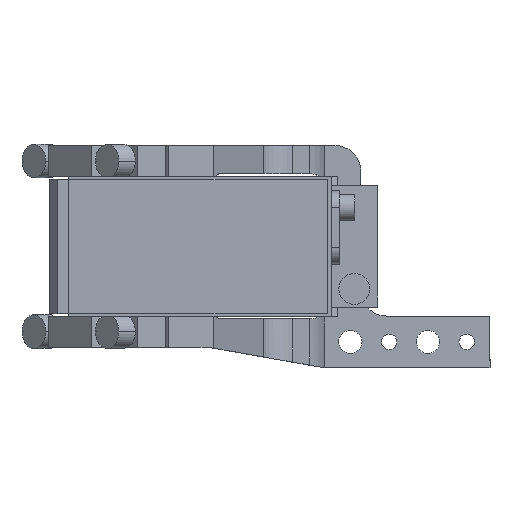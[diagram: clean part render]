
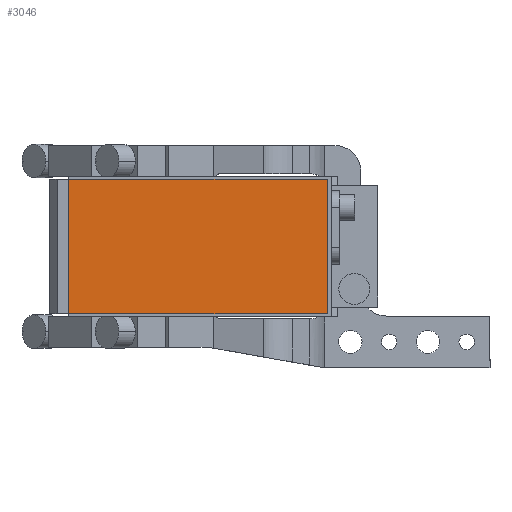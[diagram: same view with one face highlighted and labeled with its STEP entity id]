
A CAD part, front view. The second image highlights one B-rep face of the part: STEP entity #3046.
In plain terms, the highlighted planar face has unit normal (0, -1, 0).
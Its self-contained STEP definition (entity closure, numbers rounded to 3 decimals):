
#658 = CARTESIAN_POINT ( 'NONE',  ( 81., -286.5, -26. ) ) ;
#719 = DIRECTION ( 'NONE',  ( 0., 0., 1. ) ) ;
#2239 = PLANE ( 'NONE',  #13825 ) ;
#3046 = ADVANCED_FACE ( 'NONE', ( #13877 ), #2239, .T. ) ;
#3102 = VECTOR ( 'NONE', #9604, 1000. ) ;
#3783 = CARTESIAN_POINT ( 'NONE',  ( -19., -286.5, -26. ) ) ;
#3981 = LINE ( 'NONE', #10497, #9321 ) ;
#3997 = ORIENTED_EDGE ( 'NONE', *, *, #5119, .T. ) ;
#4009 = CARTESIAN_POINT ( 'NONE',  ( -19., -286.5, -26. ) ) ;
#4039 = ORIENTED_EDGE ( 'NONE', *, *, #9570, .T. ) ;
#4525 = EDGE_CURVE ( 'NONE', #5965, #10776, #6118, .T. ) ;
#4769 = CARTESIAN_POINT ( 'NONE',  ( 81., -286.5, 26. ) ) ;
#5048 = CARTESIAN_POINT ( 'NONE',  ( -19., -286.5, 26. ) ) ;
#5119 = EDGE_CURVE ( 'NONE', #13232, #5965, #6139, .T. ) ;
#5232 = ORIENTED_EDGE ( 'NONE', *, *, #4525, .T. ) ;
#5403 = CARTESIAN_POINT ( 'NONE',  ( 0., -286.5, 0. ) ) ;
#5965 = VERTEX_POINT ( 'NONE', #658 ) ;
#6118 = LINE ( 'NONE', #7043, #12149 ) ;
#6139 = LINE ( 'NONE', #4009, #3102 ) ;
#6336 = LINE ( 'NONE', #11692, #12906 ) ;
#6414 = VERTEX_POINT ( 'NONE', #5048 ) ;
#6945 = ORIENTED_EDGE ( 'NONE', *, *, #13244, .T. ) ;
#7043 = CARTESIAN_POINT ( 'NONE',  ( 81., -286.5, 26. ) ) ;
#7449 = DIRECTION ( 'NONE',  ( 0., 0., -1. ) ) ;
#9089 = DIRECTION ( 'NONE',  ( 0., 0., -1. ) ) ;
#9321 = VECTOR ( 'NONE', #9089, 1000. ) ;
#9513 = DIRECTION ( 'NONE',  ( -1., 0., 0. ) ) ;
#9570 = EDGE_CURVE ( 'NONE', #6414, #13232, #3981, .T. ) ;
#9604 = DIRECTION ( 'NONE',  ( 1., 0., 0. ) ) ;
#9699 = DIRECTION ( 'NONE',  ( 0., -1., 0. ) ) ;
#10497 = CARTESIAN_POINT ( 'NONE',  ( -19., -286.5, 26. ) ) ;
#10776 = VERTEX_POINT ( 'NONE', #4769 ) ;
#11258 = EDGE_LOOP ( 'NONE', ( #4039, #3997, #5232, #6945 ) ) ;
#11692 = CARTESIAN_POINT ( 'NONE',  ( -19., -286.5, 26. ) ) ;
#12149 = VECTOR ( 'NONE', #719, 1000. ) ;
#12906 = VECTOR ( 'NONE', #9513, 1000. ) ;
#13232 = VERTEX_POINT ( 'NONE', #3783 ) ;
#13244 = EDGE_CURVE ( 'NONE', #10776, #6414, #6336, .T. ) ;
#13825 = AXIS2_PLACEMENT_3D ( 'NONE', #5403, #9699, #7449 ) ;
#13877 = FACE_OUTER_BOUND ( 'NONE', #11258, .T. ) ;
